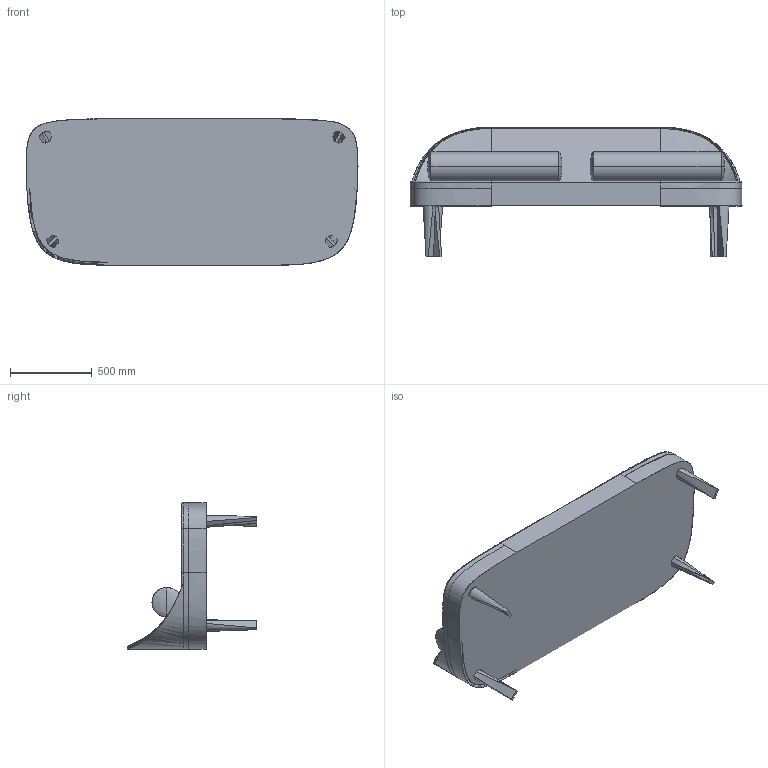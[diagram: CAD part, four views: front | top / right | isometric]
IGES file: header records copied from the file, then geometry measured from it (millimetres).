
Start section: SolidWorks IGES file using analytic representation for surfaces
Global section: file name: C:\Users\serena.trevisiol\Documents\BLA e BLABLA 3D\BLABLA.IGS; native system: SolidWorks 2016; preprocessor: SolidWorks 2016; author: serena.trevisiol; date: 160511.113034; units: millimetre
Bounding box: 2027.8 x 792.84 x 894.1 mm (x, y, z)
Surface area: 8191198 mm2 (no closed solid volume)
Topology: 0 solids, 0 shells, 115 faces, 2795 edges, 2781 vertices
Faces by surface type: bspline 107, revolution 8
